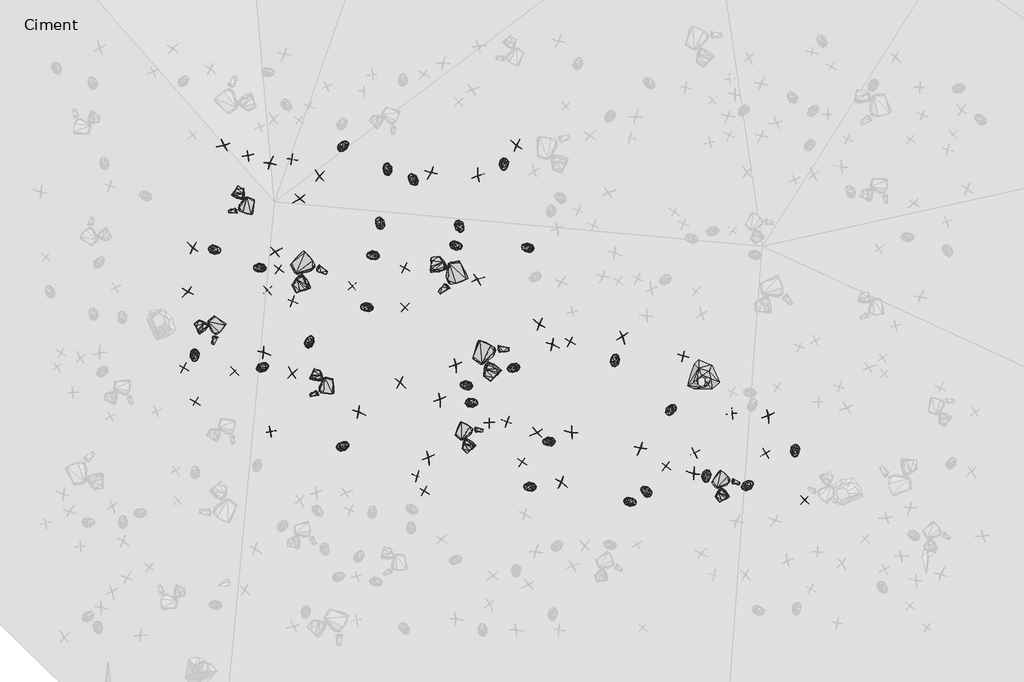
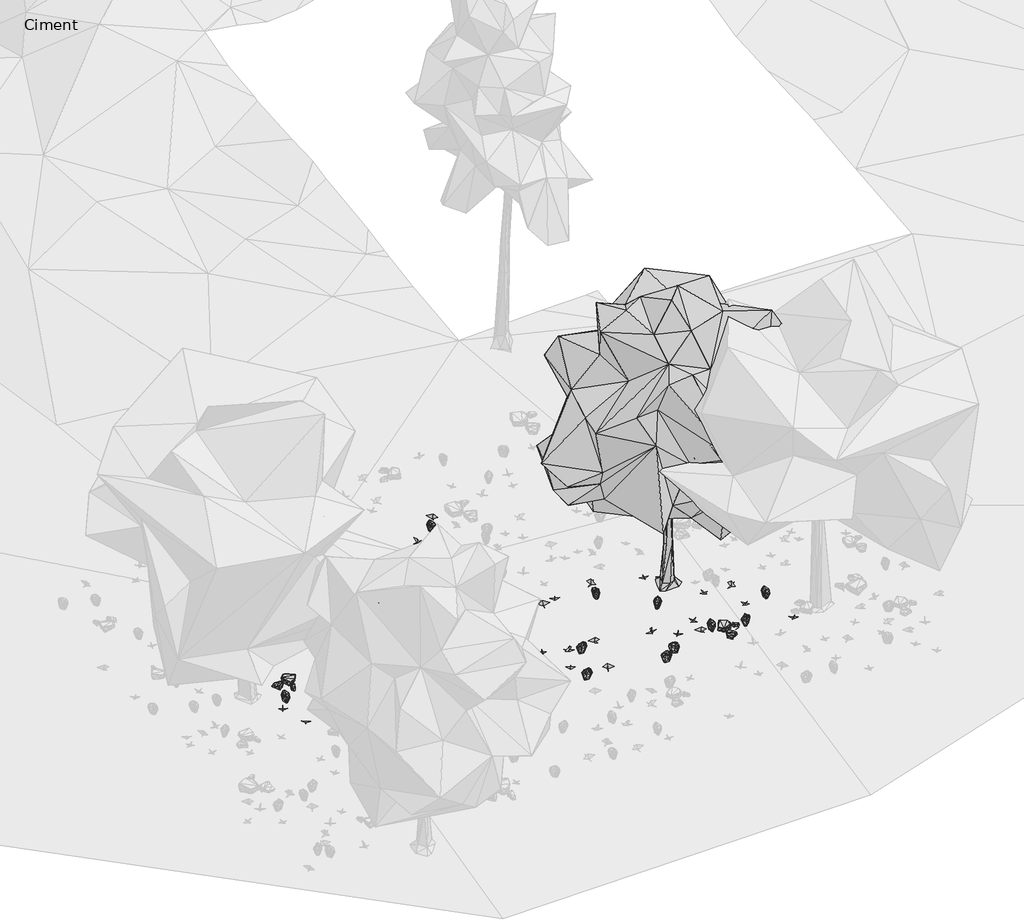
# One storey, part 4 of 30: 88 geographic elements.
"""IFC4 building model written with IfcOpenShell, lengths in millimetres."""

from ifc_helpers import new_model, si_unit, origin, place, context, project, spatial, transform, mapped, element, save
from components import enscape_assetdefinition_bush_025_fern_enscape_5718bf32, enscape_assetdefinition_bush_054_plant_09_version_2_enscape_7b546a12, enscape_assetdefinition_bush_062_plant_09_version_3_enscape_ccf8c8eb, enscape_assetdefinition_deciduous_tree_024_elm_enscape_8f9d8ef3, enscape_assetdefinition_stone_013_group_enscape_516da325, enscape_assetdefinition_stone_013_group_enscape_db9b3e91

model = new_model("IFC4")

# Units and contexts
model_context = context("Model", 3, world=origin())
ifc_project = project(units=[si_unit("LENGTHUNIT", "METRE", prefix="MILLI")], contexts=[model_context])

# Site, building, storey
site = spatial("IfcSite", under=ifc_project)
building = spatial("IfcBuilding", under=site)
storey = spatial("IfcBuildingStorey", under=building, Name="Ciment", Elevation=-1500.0)

# Geographic elements
placement = place(None, origin())
enscape_assetdefinition_bush_025_fern_enscape_shape = enscape_assetdefinition_bush_025_fern_enscape_5718bf32(model_context)
element("IfcGeographicElement", 1, ObjectType="Enscape AssetDefinition - Bush 025 Fern : Enscape AssetDefinition - Bush 025 Fern", at=placement, inside=storey, context=model_context, shape_type="MappedRepresentation", body=[
    mapped(enscape_assetdefinition_bush_025_fern_enscape_shape, transform((-15313.0407333, -20746.4199066, -2335.6375694), x_axis=(0.1297485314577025, -0.9915469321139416, 0.0), y_axis=(0.9915469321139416, 0.1297485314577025, 0.0), z_axis=(0.0, 0.0, 1.0))),
])
element("IfcGeographicElement", 2, ObjectType="Enscape AssetDefinition - Bush 025 Fern : Enscape AssetDefinition - Bush 025 Fern", at=placement, inside=storey, context=model_context, shape_type="MappedRepresentation", body=[
    mapped(enscape_assetdefinition_bush_025_fern_enscape_shape, transform((-9325.4852295, -21767.3854828, -2311.6297722), x_axis=(0.9930933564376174, 0.11732683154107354, 0.0), y_axis=(-0.11732683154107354, 0.9930933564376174, 0.0), z_axis=(0.0, 0.0, 1.0))),
])
element("IfcGeographicElement", 3, ObjectType="Enscape AssetDefinition - Bush 025 Fern : Enscape AssetDefinition - Bush 025 Fern", at=placement, inside=storey, context=model_context, shape_type="MappedRepresentation", body=[
    mapped(enscape_assetdefinition_bush_025_fern_enscape_shape, transform((-2356.4720154, -22803.4362793, -2377.5362968), x_axis=(0.049325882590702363, -0.9987827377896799, 0.0), y_axis=(0.9987827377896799, 0.049325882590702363, 0.0), z_axis=(0.0, 0.0, 1.0))),
])
element("IfcGeographicElement", 4, ObjectType="Enscape AssetDefinition - Bush 025 Fern : Enscape AssetDefinition - Bush 025 Fern", at=placement, inside=storey, context=model_context, shape_type="MappedRepresentation", body=[
    mapped(enscape_assetdefinition_bush_025_fern_enscape_shape, transform((-12105.3905487, -22703.8173676, -2388.0412579), x_axis=(0.8779744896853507, 0.4787074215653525, 0.0), y_axis=(-0.4787074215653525, 0.8779744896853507, 0.0), z_axis=(0.0, 0.0, 1.0))),
])
element("IfcGeographicElement", 5, ObjectType="Enscape AssetDefinition - Bush 025 Fern : Enscape AssetDefinition - Bush 025 Fern", at=placement, inside=storey, context=model_context, shape_type="MappedRepresentation", body=[
    mapped(enscape_assetdefinition_bush_025_fern_enscape_shape, transform((-3368.6561584, -23548.3875275, -2411.5333557), x_axis=(0.8121605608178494, 0.5834339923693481, 0.0), y_axis=(-0.5834339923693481, 0.8121605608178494, 0.0), z_axis=(0.0, 0.0, 1.0))),
])
element("IfcGeographicElement", 6, ObjectType="Enscape AssetDefinition - Bush 025 Fern : Enscape AssetDefinition - Bush 025 Fern", at=placement, inside=storey, context=model_context, shape_type="MappedRepresentation", body=[
    mapped(enscape_assetdefinition_bush_025_fern_enscape_shape, transform((-8078.8726807, -23575.5462646, -2445.1582432), x_axis=(-0.9970625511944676, -0.07659157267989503, 0.0), y_axis=(0.07659157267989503, -0.9970625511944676, 0.0), z_axis=(0.0, 0.0, 1.0))),
])
element("IfcGeographicElement", 7, ObjectType="Enscape AssetDefinition - Bush 025 Fern : Enscape AssetDefinition - Bush 025 Fern", at=placement, inside=storey, context=model_context, shape_type="MappedRepresentation", body=[
    mapped(enscape_assetdefinition_bush_025_fern_enscape_shape, transform((-9454.8883438, -21385.011673, -2282.4313641), x_axis=(-0.9969467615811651, 0.07808427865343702, 0.0), y_axis=(-0.07808427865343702, -0.9969467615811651, 0.0), z_axis=(0.0, 0.0, 1.0))),
])
element("IfcGeographicElement", 8, ObjectType="Enscape AssetDefinition - Bush 025 Fern : Enscape AssetDefinition - Bush 025 Fern", at=placement, inside=storey, context=model_context, shape_type="MappedRepresentation", body=[
    mapped(enscape_assetdefinition_bush_025_fern_enscape_shape, transform((-11306.9677353, -17879.9571991, -2019.548893), x_axis=(-0.4514173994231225, 0.8923129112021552, 0.0), y_axis=(-0.8923129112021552, -0.4514173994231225, 0.0), z_axis=(0.0, 0.0, 1.0))),
])
element("IfcGeographicElement", 9, ObjectType="Enscape AssetDefinition - Bush 025 Fern : Enscape AssetDefinition - Bush 025 Fern", at=placement, inside=storey, context=model_context, shape_type="MappedRepresentation", body=[
    mapped(enscape_assetdefinition_bush_025_fern_enscape_shape, transform((-8126.4076233, -18412.5843048, -2038.7320518), x_axis=(-0.9978548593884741, 0.06546510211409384, 0.0), y_axis=(-0.06546510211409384, -0.9978548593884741, 0.0), z_axis=(0.0, 0.0, 1.0))),
])
element("IfcGeographicElement", 10, ObjectType="Enscape AssetDefinition - Bush 025 Fern : Enscape AssetDefinition - Bush 025 Fern", at=placement, inside=storey, context=model_context, shape_type="MappedRepresentation", body=[
    mapped(enscape_assetdefinition_bush_025_fern_enscape_shape, transform((-9663.4464264, -18376.5983582, -2046.9055176), x_axis=(0.9950026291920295, -0.0998487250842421, 0.0), y_axis=(0.0998487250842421, 0.9950026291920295, 0.0), z_axis=(0.0, 0.0, 1.0))),
])
element("IfcGeographicElement", 11, ObjectType="Enscape AssetDefinition - Bush 025 Fern : Enscape AssetDefinition - Bush 025 Fern", at=placement, inside=storey, context=model_context, shape_type="MappedRepresentation", body=[
    mapped(enscape_assetdefinition_bush_025_fern_enscape_shape, transform((-7670.2461243, -22597.0287323, -2365.1385307), x_axis=(-0.9947774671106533, -0.10206758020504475, 0.0), y_axis=(0.10206758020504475, -0.9947774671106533, 0.0), z_axis=(0.0, 0.0, 1.0))),
])
element("IfcGeographicElement", 12, ObjectType="Enscape AssetDefinition - Bush 025 Fern : Enscape AssetDefinition - Bush 025 Fern", at=placement, inside=storey, context=model_context, shape_type="MappedRepresentation", body=[
    mapped(enscape_assetdefinition_bush_025_fern_enscape_shape, transform((-11464.8799896, -18580.3279877, -2075.8590698), x_axis=(-0.9937899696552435, -0.11127217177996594, 0.0), y_axis=(0.11127217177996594, -0.9937899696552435, 0.0), z_axis=(0.0, 0.0, 1.0))),
])
element("IfcGeographicElement", 13, ObjectType="Enscape AssetDefinition - Bush 025 Fern : Enscape AssetDefinition - Bush 025 Fern", at=placement, inside=storey, context=model_context, shape_type="MappedRepresentation", body=[
    mapped(enscape_assetdefinition_bush_025_fern_enscape_shape, transform((-6234.2834473, -20842.5540924, -2216.6259289), x_axis=(0.021622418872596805, 0.9997662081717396, 0.0), y_axis=(-0.9997662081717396, 0.021622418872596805, 0.0), z_axis=(0.0, 0.0, 1.0))),
])
element("IfcGeographicElement", 14, ObjectType="Enscape AssetDefinition - Bush 025 Fern : Enscape AssetDefinition - Bush 025 Fern", at=placement, inside=storey, context=model_context, shape_type="MappedRepresentation", body=[
    mapped(enscape_assetdefinition_bush_025_fern_enscape_shape, transform((-12096.862793, -16220.2587128, -1874.7041225), x_axis=(0.6278573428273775, 0.778328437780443, 0.0), y_axis=(-0.778328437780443, 0.6278573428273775, 0.0), z_axis=(0.0, 0.0, 1.0))),
])
element("IfcGeographicElement", 15, ObjectType="Enscape AssetDefinition - Bush 025 Fern : Enscape AssetDefinition - Bush 025 Fern", at=placement, inside=storey, context=model_context, shape_type="MappedRepresentation", body=[
    mapped(enscape_assetdefinition_bush_025_fern_enscape_shape, transform((-11145.0939178, -16713.0641937, -1909.6087217), x_axis=(-0.2807022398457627, 0.9597949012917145, 0.0), y_axis=(-0.9597949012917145, -0.2807022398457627, 0.0), z_axis=(0.0, 0.0, 1.0))),
])
element("IfcGeographicElement", 16, ObjectType="Enscape AssetDefinition - Bush 025 Fern : Enscape AssetDefinition - Bush 025 Fern", at=placement, inside=storey, context=model_context, shape_type="MappedRepresentation", body=[
    mapped(enscape_assetdefinition_bush_025_fern_enscape_shape, transform((-14871.966362, -18464.5748138, -2153.5224915), x_axis=(0.9970270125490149, -0.07705281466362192, 0.0), y_axis=(0.07705281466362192, 0.9970270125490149, 0.0), z_axis=(0.0, 0.0, 1.0))),
])
element("IfcGeographicElement", 17, ObjectType="Enscape AssetDefinition - Bush 025 Fern : Enscape AssetDefinition - Bush 025 Fern", at=placement, inside=storey, context=model_context, shape_type="MappedRepresentation", body=[
    mapped(enscape_assetdefinition_bush_025_fern_enscape_shape, transform((-8434.7333908, -21007.2364807, -2245.3613281), x_axis=(-0.9186868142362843, -0.3949867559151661, 0.0), y_axis=(0.3949867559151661, -0.9186868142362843, 0.0), z_axis=(0.0, 0.0, 1.0))),
])
element("IfcGeographicElement", 18, ObjectType="Enscape AssetDefinition - Bush 025 Fern : Enscape AssetDefinition - Bush 025 Fern", at=placement, inside=storey, context=model_context, shape_type="MappedRepresentation", body=[
    mapped(enscape_assetdefinition_bush_025_fern_enscape_shape, transform((-10593.7786102, -16935.7891083, -1926.3224602), x_axis=(-0.608990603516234, 0.7931774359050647, 0.0), y_axis=(-0.7931774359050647, -0.608990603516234, 0.0), z_axis=(0.0, 0.0, 1.0))),
])
element("IfcGeographicElement", 19, ObjectType="Enscape AssetDefinition - Bush 025 Fern : Enscape AssetDefinition - Bush 025 Fern", at=placement, inside=storey, context=model_context, shape_type="MappedRepresentation", body=[
    mapped(enscape_assetdefinition_bush_025_fern_enscape_shape, transform((-9595.0908661, -17966.0930634, -2014.0740871), x_axis=(0.4846294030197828, -0.8747195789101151, 0.0), y_axis=(0.8747195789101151, 0.4846294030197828, 0.0), z_axis=(0.0, 0.0, 1.0))),
])
element("IfcGeographicElement", 20, ObjectType="Enscape AssetDefinition - Bush 025 Fern : Enscape AssetDefinition - Bush 025 Fern", at=placement, inside=storey, context=model_context, shape_type="MappedRepresentation", body=[
    mapped(enscape_assetdefinition_bush_025_fern_enscape_shape, transform((-13912.6768112, -18847.3339081, -2116.3358688), x_axis=(-0.9989013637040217, -0.04686219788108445, 0.0), y_axis=(0.04686219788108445, -0.9989013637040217, 0.0), z_axis=(0.0, 0.0, 1.0))),
])
element("IfcGeographicElement", 21, ObjectType="Enscape AssetDefinition - Bush 025 Fern : Enscape AssetDefinition - Bush 025 Fern", at=placement, inside=storey, context=model_context, shape_type="MappedRepresentation", body=[
    mapped(enscape_assetdefinition_bush_025_fern_enscape_shape, transform((-5039.3180847, -21921.2665558, -2293.0545807), x_axis=(-0.587233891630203, -0.8094172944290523, 0.0), y_axis=(0.8094172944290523, -0.587233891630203, 0.0), z_axis=(0.0, 0.0, 1.0))),
])
element("IfcGeographicElement", 22, ObjectType="Enscape AssetDefinition - Bush 025 Fern : Enscape AssetDefinition - Bush 025 Fern", at=placement, inside=storey, context=model_context, shape_type="MappedRepresentation", body=[
    mapped(enscape_assetdefinition_bush_025_fern_enscape_shape, transform((-4268.4993744, -23350.9807587, -2400.1746178), x_axis=(-0.06346333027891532, -0.9979841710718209, 0.0), y_axis=(0.9979841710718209, -0.06346333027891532, 0.0), z_axis=(0.0, 0.0, 1.0))),
])
element("IfcGeographicElement", 23, ObjectType="Enscape AssetDefinition - Bush 025 Fern : Enscape AssetDefinition - Bush 025 Fern", at=placement, inside=storey, context=model_context, shape_type="MappedRepresentation", body=[
    mapped(enscape_assetdefinition_bush_025_fern_enscape_shape, transform((-13834.8112106, -20998.4264374, -2262.0654106), x_axis=(0.8694208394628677, 0.49407226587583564, 0.0), y_axis=(-0.49407226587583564, 0.8694208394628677, 0.0), z_axis=(0.0, 0.0, 1.0))),
])
element("IfcGeographicElement", 24, ObjectType="Enscape AssetDefinition - Bush 025 Fern : Enscape AssetDefinition - Bush 025 Fern", at=placement, inside=storey, context=model_context, shape_type="MappedRepresentation", body=[
    mapped(enscape_assetdefinition_bush_025_fern_enscape_shape, transform((-5565.0501251, -23671.7243195, -2434.7310066), x_axis=(-0.8082638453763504, 0.5888204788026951, 0.0), y_axis=(-0.5888204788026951, -0.8082638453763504, 0.0), z_axis=(0.0, 0.0, 1.0))),
])
element("IfcGeographicElement", 25, ObjectType="Enscape AssetDefinition - Bush 025 Fern : Enscape AssetDefinition - Bush 025 Fern", at=placement, inside=storey, context=model_context, shape_type="MappedRepresentation", body=[
    mapped(enscape_assetdefinition_bush_025_fern_enscape_shape, transform((-5908.0066681, -23906.5570831, -2455.6884766), x_axis=(0.9990170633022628, -0.0443272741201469, 0.0), y_axis=(0.0443272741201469, 0.9990170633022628, 0.0), z_axis=(0.0, 0.0, 1.0))),
])
element("IfcGeographicElement", 26, ObjectType="Enscape AssetDefinition - Bush 025 Fern : Enscape AssetDefinition - Bush 025 Fern", at=placement, inside=storey, context=model_context, shape_type="MappedRepresentation", body=[
    mapped(enscape_assetdefinition_bush_025_fern_enscape_shape, transform((-11600.5897522, -19696.0468292, -2164.7338867), x_axis=(-0.9999663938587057, -0.008198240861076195, 0.0), y_axis=(0.008198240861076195, -0.9999663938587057, 0.0), z_axis=(0.0, 0.0, 1.0))),
])
element("IfcGeographicElement", 27, ObjectType="Enscape AssetDefinition - Bush 025 Fern : Enscape AssetDefinition - Bush 025 Fern", at=placement, inside=storey, context=model_context, shape_type="MappedRepresentation", body=[
    mapped(enscape_assetdefinition_bush_025_fern_enscape_shape, transform((-12822.5898743, -20443.0027008, -2221.8499184), x_axis=(0.24682736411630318, 0.9690594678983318, 0.0), y_axis=(-0.9690594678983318, 0.24682736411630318, 0.0), z_axis=(0.0, 0.0, 1.0))),
])
element("IfcGeographicElement", 28, ObjectType="Enscape AssetDefinition - Bush 025 Fern : Enscape AssetDefinition - Bush 025 Fern", at=placement, inside=storey, context=model_context, shape_type="MappedRepresentation", body=[
    mapped(enscape_assetdefinition_bush_025_fern_enscape_shape, transform((-8637.2289658, -16618.3414459, -1878.3597946), x_axis=(0.07290643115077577, -0.9973387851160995, 0.0), y_axis=(0.9973387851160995, 0.07290643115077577, 0.0), z_axis=(0.0, 0.0, 1.0))),
])
enscape_assetdefinition_bush_054_plant_09_version_2_enscape_shape = enscape_assetdefinition_bush_054_plant_09_version_2_enscape_7b546a12(model_context)
element("IfcGeographicElement", 29, ObjectType="Enscape AssetDefinition - Bush 054 Plant 09, Version 2 : Enscape AssetDefinition - Bush 054 Plant 09, Version 2", at=placement, inside=storey, context=model_context, shape_type="MappedRepresentation", body=[
    mapped(enscape_assetdefinition_bush_054_plant_09_version_2_enscape_shape, transform((-4759.5596313, -20756.8759918, -2199.313879), x_axis=(0.18864161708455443, 0.9820459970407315, 0.0), y_axis=(-0.9820459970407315, 0.18864161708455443, 0.0), z_axis=(0.0, 0.0, 1.0))),
])
element("IfcGeographicElement", 30, ObjectType="Enscape AssetDefinition - Bush 054 Plant 09, Version 2 : Enscape AssetDefinition - Bush 054 Plant 09, Version 2", at=placement, inside=storey, context=model_context, shape_type="MappedRepresentation", body=[
    mapped(enscape_assetdefinition_bush_054_plant_09_version_2_enscape_shape, transform((-8573.3089447, -22175.8518219, -2338.4239674), x_axis=(0.9604195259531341, -0.27855759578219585, 0.0), y_axis=(0.27855759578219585, 0.9604195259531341, 0.0), z_axis=(0.0, 0.0, 1.0))),
])
element("IfcGeographicElement", 31, ObjectType="Enscape AssetDefinition - Bush 054 Plant 09, Version 2 : Enscape AssetDefinition - Bush 054 Plant 09, Version 2", at=placement, inside=storey, context=model_context, shape_type="MappedRepresentation", body=[
    mapped(enscape_assetdefinition_bush_054_plant_09_version_2_enscape_shape, transform((-10350.3932953, -23665.7428741, -2459.5003128), x_axis=(-0.8873368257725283, 0.4611218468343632, 0.0), y_axis=(-0.4611218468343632, -0.8873368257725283, 0.0), z_axis=(0.0, 0.0, 1.0))),
])
element("IfcGeographicElement", 32, ObjectType="Enscape AssetDefinition - Bush 054 Plant 09, Version 2 : Enscape AssetDefinition - Bush 054 Plant 09, Version 2", at=placement, inside=storey, context=model_context, shape_type="MappedRepresentation", body=[
    mapped(enscape_assetdefinition_bush_054_plant_09_version_2_enscape_shape, transform((-4518.5265541, -22839.0216827, -2361.6304398), x_axis=(-0.8640635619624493, -0.5033827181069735, 0.0), y_axis=(0.5033827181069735, -0.8640635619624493, 0.0), z_axis=(0.0, 0.0, 1.0))),
])
element("IfcGeographicElement", 33, ObjectType="Enscape AssetDefinition - Bush 054 Plant 09, Version 2 : Enscape AssetDefinition - Bush 054 Plant 09, Version 2", at=placement, inside=storey, context=model_context, shape_type="MappedRepresentation", body=[
    mapped(enscape_assetdefinition_bush_054_plant_09_version_2_enscape_shape, transform((-10512.8192902, -23350.2502441, -2436.2769127), x_axis=(0.9685882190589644, -0.2486701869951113, 0.0), y_axis=(0.2486701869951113, 0.9685882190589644, 0.0), z_axis=(0.0, 0.0, 1.0))),
])
element("IfcGeographicElement", 34, ObjectType="Enscape AssetDefinition - Bush 054 Plant 09, Version 2 : Enscape AssetDefinition - Bush 054 Plant 09, Version 2", at=placement, inside=storey, context=model_context, shape_type="MappedRepresentation", body=[
    mapped(enscape_assetdefinition_bush_054_plant_09_version_2_enscape_shape, transform((-3709.400177, -22000.9632111, -2289.8087502), x_axis=(0.9890036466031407, 0.14789113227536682, 0.0), y_axis=(-0.14789113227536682, 0.9890036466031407, 0.0), z_axis=(0.0, 0.0, 1.0))),
])
element("IfcGeographicElement", 35, ObjectType="Enscape AssetDefinition - Bush 054 Plant 09, Version 2 : Enscape AssetDefinition - Bush 054 Plant 09, Version 2", at=placement, inside=storey, context=model_context, shape_type="MappedRepresentation", body=[
    mapped(enscape_assetdefinition_bush_054_plant_09_version_2_enscape_shape, transform((-7201.8013, -20447.2579956, -2192.4126148), x_axis=(0.4248440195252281, 0.9052665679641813, 0.0), y_axis=(-0.9052665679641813, 0.4248440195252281, 0.0), z_axis=(0.0, 0.0, 1.0))),
])
element("IfcGeographicElement", 36, ObjectType="Enscape AssetDefinition - Bush 054 Plant 09, Version 2 : Enscape AssetDefinition - Bush 054 Plant 09, Version 2", at=placement, inside=storey, context=model_context, shape_type="MappedRepresentation", body=[
    mapped(enscape_assetdefinition_bush_054_plant_09_version_2_enscape_shape, transform((-13194.6353912, -19569.0021515, -2157.5539112), x_axis=(-0.9613201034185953, 0.27543358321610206, 0.0), y_axis=(-0.27543358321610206, -0.9613201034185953, 0.0), z_axis=(0.0, 0.0, 1.0))),
])
element("IfcGeographicElement", 37, ObjectType="Enscape AssetDefinition - Bush 054 Plant 09, Version 2 : Enscape AssetDefinition - Bush 054 Plant 09, Version 2", at=placement, inside=storey, context=model_context, shape_type="MappedRepresentation", body=[
    mapped(enscape_assetdefinition_bush_054_plant_09_version_2_enscape_shape, transform((-10775.2361298, -18848.1693268, -2092.0214653), x_axis=(-0.9086320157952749, 0.41759772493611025, 0.0), y_axis=(-0.41759772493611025, -0.9086320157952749, 0.0), z_axis=(0.0, 0.0, 1.0))),
])
element("IfcGeographicElement", 38, ObjectType="Enscape AssetDefinition - Bush 054 Plant 09, Version 2 : Enscape AssetDefinition - Bush 054 Plant 09, Version 2", at=placement, inside=storey, context=model_context, shape_type="MappedRepresentation", body=[
    mapped(enscape_assetdefinition_bush_054_plant_09_version_2_enscape_shape, transform((-10773.0312347, -19705.5950165, -2159.5582962), x_axis=(0.7577049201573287, -0.6525973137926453, 0.0), y_axis=(0.6525973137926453, 0.7577049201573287, 0.0), z_axis=(0.0, 0.0, 1.0))),
])
element("IfcGeographicElement", 39, ObjectType="Enscape AssetDefinition - Bush 054 Plant 09, Version 2 : Enscape AssetDefinition - Bush 054 Plant 09, Version 2", at=placement, inside=storey, context=model_context, shape_type="MappedRepresentation", body=[
    mapped(enscape_assetdefinition_bush_054_plant_09_version_2_enscape_shape, transform((-15543.2443619, -21007.1353912, -2368.2327271), x_axis=(-0.8990830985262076, 0.43777800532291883, 0.0), y_axis=(-0.43777800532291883, -0.8990830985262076, 0.0), z_axis=(0.0, 0.0, 1.0))),
])
element("IfcGeographicElement", 40, ObjectType="Enscape AssetDefinition - Bush 054 Plant 09, Version 2 : Enscape AssetDefinition - Bush 054 Plant 09, Version 2", at=placement, inside=storey, context=model_context, shape_type="MappedRepresentation", body=[
    mapped(enscape_assetdefinition_bush_054_plant_09_version_2_enscape_shape, transform((-2142.4312592, -23868.768692, -2469.7020054), x_axis=(0.6655663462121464, 0.7463386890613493, 0.0), y_axis=(-0.7463386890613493, 0.6655663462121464, 0.0), z_axis=(0.0, 0.0, 1.0))),
])
element("IfcGeographicElement", 41, ObjectType="Enscape AssetDefinition - Bush 054 Plant 09, Version 2 : Enscape AssetDefinition - Bush 054 Plant 09, Version 2", at=placement, inside=storey, context=model_context, shape_type="MappedRepresentation", body=[
    mapped(enscape_assetdefinition_bush_054_plant_09_version_2_enscape_shape, transform((-8237.4706268, -23044.6720123, -2404.4685364), x_axis=(0.5159078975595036, 0.8566440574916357, 0.0), y_axis=(-0.8566440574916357, 0.5159078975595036, 0.0), z_axis=(0.0, 0.0, 1.0))),
])
element("IfcGeographicElement", 42, ObjectType="Enscape AssetDefinition - Bush 054 Plant 09, Version 2 : Enscape AssetDefinition - Bush 054 Plant 09, Version 2", at=placement, inside=storey, context=model_context, shape_type="MappedRepresentation", body=[
    mapped(enscape_assetdefinition_bush_054_plant_09_version_2_enscape_shape, transform((-8944.6983337, -22194.8509216, -2342.5803185), x_axis=(-0.06449949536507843, 0.9979177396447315, 0.0), y_axis=(-0.9979177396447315, -0.06449949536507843, 0.0), z_axis=(0.0, 0.0, 1.0))),
])
element("IfcGeographicElement", 43, ObjectType="Enscape AssetDefinition - Bush 054 Plant 09, Version 2 : Enscape AssetDefinition - Bush 054 Plant 09, Version 2", at=placement, inside=storey, context=model_context, shape_type="MappedRepresentation", body=[
    mapped(enscape_assetdefinition_bush_054_plant_09_version_2_enscape_shape, transform((-14152.0824432, -16429.5444489, -2000.0), x_axis=(-0.22456502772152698, 0.9744591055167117, 0.0), y_axis=(-0.9744591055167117, -0.22456502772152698, 0.0), z_axis=(0.0, 0.0, 1.0))),
])
element("IfcGeographicElement", 44, ObjectType="Enscape AssetDefinition - Bush 054 Plant 09, Version 2 : Enscape AssetDefinition - Bush 054 Plant 09, Version 2", at=placement, inside=storey, context=model_context, shape_type="MappedRepresentation", body=[
    mapped(enscape_assetdefinition_bush_054_plant_09_version_2_enscape_shape, transform((-2986.1602783, -22857.843399, -2365.4537201), x_axis=(0.8395988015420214, 0.543207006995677, 0.0), y_axis=(-0.543207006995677, 0.8395988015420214, 0.0), z_axis=(0.0, 0.0, 1.0))),
])
element("IfcGeographicElement", 45, ObjectType="Enscape AssetDefinition - Bush 054 Plant 09, Version 2 : Enscape AssetDefinition - Bush 054 Plant 09, Version 2", at=placement, inside=storey, context=model_context, shape_type="MappedRepresentation", body=[
    mapped(enscape_assetdefinition_bush_054_plant_09_version_2_enscape_shape, transform((-13489.7994995, -18880.6476593, -2106.9133282), x_axis=(0.5274338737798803, 0.8495960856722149, 0.0), y_axis=(-0.8495960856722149, 0.5274338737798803, 0.0), z_axis=(0.0, 0.0, 1.0))),
])
element("IfcGeographicElement", 46, ObjectType="Enscape AssetDefinition - Bush 054 Plant 09, Version 2 : Enscape AssetDefinition - Bush 054 Plant 09, Version 2", at=placement, inside=storey, context=model_context, shape_type="MappedRepresentation", body=[
    mapped(enscape_assetdefinition_bush_054_plant_09_version_2_enscape_shape, transform((-11908.741951, -19245.5234528, -2131.4454079), x_axis=(0.6856428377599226, -0.727938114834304, 0.0), y_axis=(0.727938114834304, 0.6856428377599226, 0.0), z_axis=(0.0, 0.0, 1.0))),
])
element("IfcGeographicElement", 47, ObjectType="Enscape AssetDefinition - Bush 054 Plant 09, Version 2 : Enscape AssetDefinition - Bush 054 Plant 09, Version 2", at=placement, inside=storey, context=model_context, shape_type="MappedRepresentation", body=[
    mapped(enscape_assetdefinition_bush_054_plant_09_version_2_enscape_shape, transform((-5131.5231323, -23129.8389435, -2388.9331818), x_axis=(-0.8135765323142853, 0.5814578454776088, 0.0), y_axis=(-0.5814578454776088, -0.8135765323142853, 0.0), z_axis=(0.0, 0.0, 1.0))),
])
element("IfcGeographicElement", 48, ObjectType="Enscape AssetDefinition - Bush 054 Plant 09, Version 2 : Enscape AssetDefinition - Bush 054 Plant 09, Version 2", at=placement, inside=storey, context=model_context, shape_type="MappedRepresentation", body=[
    mapped(enscape_assetdefinition_bush_054_plant_09_version_2_enscape_shape, transform((-13206.6869736, -16504.4727325, -1943.2623386), x_axis=(-0.9947817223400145, 0.10202609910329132, 0.0), y_axis=(-0.10202609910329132, -0.9947817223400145, 0.0), z_axis=(0.0, 0.0, 1.0))),
])
element("IfcGeographicElement", 49, ObjectType="Enscape AssetDefinition - Bush 054 Plant 09, Version 2 : Enscape AssetDefinition - Bush 054 Plant 09, Version 2", at=placement, inside=storey, context=model_context, shape_type="MappedRepresentation", body=[
    mapped(enscape_assetdefinition_bush_054_plant_09_version_2_enscape_shape, transform((-13738.1906509, -19330.5435181, -2139.7829056), x_axis=(-0.7114569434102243, -0.7027296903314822, 0.0), y_axis=(0.7027296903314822, -0.7114569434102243, 0.0), z_axis=(0.0, 0.0, 1.0))),
])
element("IfcGeographicElement", 50, ObjectType="Enscape AssetDefinition - Bush 054 Plant 09, Version 2 : Enscape AssetDefinition - Bush 054 Plant 09, Version 2", at=placement, inside=storey, context=model_context, shape_type="MappedRepresentation", body=[
    mapped(enscape_assetdefinition_bush_054_plant_09_version_2_enscape_shape, transform((-13668.2415009, -22380.5408478, -2363.5234833), x_axis=(-0.9745796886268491, -0.22404113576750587, 0.0), y_axis=(0.22404113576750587, -0.9745796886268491, 0.0), z_axis=(0.0, 0.0, 1.0))),
])
element("IfcGeographicElement", 51, ObjectType="Enscape AssetDefinition - Bush 054 Plant 09, Version 2 : Enscape AssetDefinition - Bush 054 Plant 09, Version 2", at=placement, inside=storey, context=model_context, shape_type="MappedRepresentation", body=[
    mapped(enscape_assetdefinition_bush_054_plant_09_version_2_enscape_shape, transform((-14442.6488876, -21086.3018036, -2301.3997078), x_axis=(0.7046908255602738, 0.7095145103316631, 0.0), y_axis=(-0.7095145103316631, 0.7046908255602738, 0.0), z_axis=(0.0, 0.0, 1.0))),
])
element("IfcGeographicElement", 52, ObjectType="Enscape AssetDefinition - Bush 054 Plant 09, Version 2 : Enscape AssetDefinition - Bush 054 Plant 09, Version 2", at=placement, inside=storey, context=model_context, shape_type="MappedRepresentation", body=[
    mapped(enscape_assetdefinition_bush_054_plant_09_version_2_enscape_shape, transform((-15296.2341309, -21742.6586151, -2401.4225006), x_axis=(-0.47309816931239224, -0.8810097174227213, 0.0), y_axis=(0.8810097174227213, -0.47309816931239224, 0.0), z_axis=(0.0, 0.0, 1.0))),
])
enscape_assetdefinition_bush_062_plant_09_version_3_enscape_shape = enscape_assetdefinition_bush_062_plant_09_version_3_enscape_ccf8c8eb(model_context)
element("IfcGeographicElement", 53, ObjectType="Enscape AssetDefinition - Bush 062 Plant 09, Version 3 : Enscape AssetDefinition - Bush 062 Plant 09, Version 3", at=placement, inside=storey, context=model_context, shape_type="MappedRepresentation", body=[
    mapped(enscape_assetdefinition_bush_062_plant_09_version_3_enscape_shape, transform((-7578.6004066, -20508.4323883, -2199.9311447), x_axis=(-0.05804061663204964, -0.9983142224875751, 0.0), y_axis=(0.9983142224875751, -0.05804061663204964, 0.0), z_axis=(0.0, 0.0, 1.0))),
])
element("IfcGeographicElement", 54, ObjectType="Enscape AssetDefinition - Bush 062 Plant 09, Version 3 : Enscape AssetDefinition - Bush 062 Plant 09, Version 3", at=placement, inside=storey, context=model_context, shape_type="MappedRepresentation", body=[
    mapped(enscape_assetdefinition_bush_062_plant_09_version_3_enscape_shape, transform((-15355.7243347, -18412.7025604, -2181.7514896), x_axis=(0.3776370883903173, 0.9259536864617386, 0.0), y_axis=(-0.9259536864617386, 0.3776370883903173, 0.0), z_axis=(0.0, 0.0, 1.0))),
])
element("IfcGeographicElement", 55, ObjectType="Enscape AssetDefinition - Bush 062 Plant 09, Version 3 : Enscape AssetDefinition - Bush 062 Plant 09, Version 3", at=placement, inside=storey, context=model_context, shape_type="MappedRepresentation", body=[
    mapped(enscape_assetdefinition_bush_062_plant_09_version_3_enscape_shape, transform((-13558.1254959, -18495.7180023, -2078.6452293), x_axis=(0.7349448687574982, -0.678126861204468, 0.0), y_axis=(0.678126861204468, 0.7349448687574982, 0.0), z_axis=(0.0, 0.0, 1.0))),
])
element("IfcGeographicElement", 56, ObjectType="Enscape AssetDefinition - Bush 062 Plant 09, Version 3 : Enscape AssetDefinition - Bush 062 Plant 09, Version 3", at=placement, inside=storey, context=model_context, shape_type="MappedRepresentation", body=[
    mapped(enscape_assetdefinition_bush_062_plant_09_version_3_enscape_shape, transform((-13212.4328613, -21123.7201691, -2271.5764046), x_axis=(0.6449329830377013, 0.7642391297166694, 0.0), y_axis=(-0.7642391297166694, 0.6449329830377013, 0.0), z_axis=(0.0, 0.0, 1.0))),
])
element("IfcGeographicElement", 57, ObjectType="Enscape AssetDefinition - Bush 062 Plant 09, Version 3 : Enscape AssetDefinition - Bush 062 Plant 09, Version 3", at=placement, inside=storey, context=model_context, shape_type="MappedRepresentation", body=[
    mapped(enscape_assetdefinition_bush_062_plant_09_version_3_enscape_shape, transform((-11759.1819763, -21964.2467499, -2333.9760303), x_axis=(-0.07352542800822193, -0.9972933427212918, 0.0), y_axis=(0.9972933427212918, -0.07352542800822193, 0.0), z_axis=(0.0, 0.0, 1.0))),
])
element("IfcGeographicElement", 58, ObjectType="Enscape AssetDefinition - Bush 062 Plant 09, Version 3 : Enscape AssetDefinition - Bush 062 Plant 09, Version 3", at=placement, inside=storey, context=model_context, shape_type="MappedRepresentation", body=[
    mapped(enscape_assetdefinition_bush_062_plant_09_version_3_enscape_shape, transform((-14688.4660721, -16212.3279572, -2001.9350052), x_axis=(-0.5386165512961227, 0.8425510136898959, 0.0), y_axis=(-0.8425510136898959, -0.5386165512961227, 0.0), z_axis=(0.0, 0.0, 1.0))),
])
element("IfcGeographicElement", 59, ObjectType="Enscape AssetDefinition - Bush 062 Plant 09, Version 3 : Enscape AssetDefinition - Bush 062 Plant 09, Version 3", at=placement, inside=storey, context=model_context, shape_type="MappedRepresentation", body=[
    mapped(enscape_assetdefinition_bush_062_plant_09_version_3_enscape_shape, transform((-6071.2561607, -20346.4031219, -2176.3696671), x_axis=(-0.7888197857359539, -0.6146245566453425, 0.0), y_axis=(0.6146245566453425, -0.7888197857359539, 0.0), z_axis=(0.0, 0.0, 1.0))),
])
element("IfcGeographicElement", 60, ObjectType="Enscape AssetDefinition - Bush 062 Plant 09, Version 3 : Enscape AssetDefinition - Bush 062 Plant 09, Version 3", at=placement, inside=storey, context=model_context, shape_type="MappedRepresentation", body=[
    mapped(enscape_assetdefinition_bush_062_plant_09_version_3_enscape_shape, transform((-7929.4719696, -22414.560318, -2352.6191711), x_axis=(-0.7445906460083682, 0.6675213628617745, 0.0), y_axis=(-0.6675213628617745, -0.7445906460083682, 0.0), z_axis=(0.0, 0.0, 1.0))),
])
element("IfcGeographicElement", 61, ObjectType="Enscape AssetDefinition - Bush 062 Plant 09, Version 3 : Enscape AssetDefinition - Bush 062 Plant 09, Version 3", at=placement, inside=storey, context=model_context, shape_type="MappedRepresentation", body=[
    mapped(enscape_assetdefinition_bush_062_plant_09_version_3_enscape_shape, transform((-10261.472702, -22953.6266327, -2407.3162079), x_axis=(-0.8848303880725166, -0.4659132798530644, 0.0), y_axis=(0.4659132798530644, -0.8848303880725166, 0.0), z_axis=(0.0, 0.0, 1.0))),
])
element("IfcGeographicElement", 62, ObjectType="Enscape AssetDefinition - Bush 062 Plant 09, Version 3 : Enscape AssetDefinition - Bush 062 Plant 09, Version 3", at=placement, inside=storey, context=model_context, shape_type="MappedRepresentation", body=[
    mapped(enscape_assetdefinition_bush_062_plant_09_version_3_enscape_shape, transform((-7385.5557442, -23483.3202362, -2432.9266548), x_axis=(-0.2732599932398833, -0.9619402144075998, 0.0), y_axis=(0.9619402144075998, -0.2732599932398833, 0.0), z_axis=(0.0, 0.0, 1.0))),
])
element("IfcGeographicElement", 63, ObjectType="Enscape AssetDefinition - Bush 062 Plant 09, Version 3 : Enscape AssetDefinition - Bush 062 Plant 09, Version 3", at=placement, inside=storey, context=model_context, shape_type="MappedRepresentation", body=[
    mapped(enscape_assetdefinition_bush_062_plant_09_version_3_enscape_shape, transform((-12623.3444214, -16866.2891388, -1937.4593496), x_axis=(0.5729011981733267, 0.8196244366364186, 0.0), y_axis=(-0.8196244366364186, 0.5729011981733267, 0.0), z_axis=(0.0, 0.0, 1.0))),
])
element("IfcGeographicElement", 64, ObjectType="Enscape AssetDefinition - Bush 062 Plant 09, Version 3 : Enscape AssetDefinition - Bush 062 Plant 09, Version 3", at=placement, inside=storey, context=model_context, shape_type="MappedRepresentation", body=[
    mapped(enscape_assetdefinition_bush_062_plant_09_version_3_enscape_shape, transform((-7182.2013855, -22406.0058594, -2346.59338), x_axis=(-0.15903567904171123, 0.9872728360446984, 0.0), y_axis=(-0.9872728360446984, -0.15903567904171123, 0.0), z_axis=(0.0, 0.0, 1.0))),
])
element("IfcGeographicElement", 65, ObjectType="Enscape AssetDefinition - Bush 062 Plant 09, Version 3 : Enscape AssetDefinition - Bush 062 Plant 09, Version 3", at=placement, inside=storey, context=model_context, shape_type="MappedRepresentation", body=[
    mapped(enscape_assetdefinition_bush_062_plant_09_version_3_enscape_shape, transform((-10864.1300201, -21330.4042816, -2287.9486084), x_axis=(-0.3950393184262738, -0.91866421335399, 0.0), y_axis=(0.91866421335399, -0.3950393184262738, 0.0), z_axis=(0.0, 0.0, 1.0))),
])
element("IfcGeographicElement", 66, ObjectType="Enscape AssetDefinition - Bush 062 Plant 09, Version 3 : Enscape AssetDefinition - Bush 062 Plant 09, Version 3", at=placement, inside=storey, context=model_context, shape_type="MappedRepresentation", body=[
    mapped(enscape_assetdefinition_bush_062_plant_09_version_3_enscape_shape, transform((-13680.0041199, -16582.4146271, -2000.0), x_axis=(0.998724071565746, -0.050499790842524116, 0.0), y_axis=(0.050499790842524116, 0.998724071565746, 0.0), z_axis=(0.0, 0.0, 1.0))),
])
element("IfcGeographicElement", 67, ObjectType="Enscape AssetDefinition - Bush 062 Plant 09, Version 3 : Enscape AssetDefinition - Bush 062 Plant 09, Version 3", at=placement, inside=storey, context=model_context, shape_type="MappedRepresentation", body=[
    mapped(enscape_assetdefinition_bush_062_plant_09_version_3_enscape_shape, transform((-10208.1642151, -16807.7754974, -1910.5322361), x_axis=(-0.9921136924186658, 0.12534121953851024, 0.0), y_axis=(-0.12534121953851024, -0.9921136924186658, 0.0), z_axis=(0.0, 0.0, 1.0))),
])
element("IfcGeographicElement", 68, ObjectType="Enscape AssetDefinition - Bush 062 Plant 09, Version 3 : Enscape AssetDefinition - Bush 062 Plant 09, Version 3", at=placement, inside=storey, context=model_context, shape_type="MappedRepresentation", body=[
    mapped(enscape_assetdefinition_bush_062_plant_09_version_3_enscape_shape, transform((-7881.9332123, -20063.0550385, -2167.014122), x_axis=(0.2906457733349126, 0.9568307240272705, 0.0), y_axis=(-0.9568307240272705, 0.2906457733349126, 0.0), z_axis=(0.0, 0.0, 1.0))),
])
element("IfcGeographicElement", 69, ObjectType="Enscape AssetDefinition - Bush 062 Plant 09, Version 3 : Enscape AssetDefinition - Bush 062 Plant 09, Version 3", at=placement, inside=storey, context=model_context, shape_type="MappedRepresentation", body=[
    mapped(enscape_assetdefinition_bush_062_plant_09_version_3_enscape_shape, transform((-10011.1875534, -21700.0293732, -2311.2344742), x_axis=(-0.8959596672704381, -0.4441354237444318, 0.0), y_axis=(0.4441354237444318, -0.8959596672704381, 0.0), z_axis=(0.0, 0.0, 1.0))),
])
element("IfcGeographicElement", 70, ObjectType="Enscape AssetDefinition - Bush 062 Plant 09, Version 3 : Enscape AssetDefinition - Bush 062 Plant 09, Version 3", at=placement, inside=storey, context=model_context, shape_type="MappedRepresentation", body=[
    mapped(enscape_assetdefinition_bush_062_plant_09_version_3_enscape_shape, transform((-15463.7098312, -19375.0171661, -2253.4399033), x_axis=(-0.9194920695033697, 0.39310855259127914, 0.0), y_axis=(-0.39310855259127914, -0.9194920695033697, 0.0), z_axis=(0.0, 0.0, 1.0))),
])
element("IfcGeographicElement", 71, ObjectType="Enscape AssetDefinition - Bush 062 Plant 09, Version 3 : Enscape AssetDefinition - Bush 062 Plant 09, Version 3", at=placement, inside=storey, context=model_context, shape_type="MappedRepresentation", body=[
    mapped(enscape_assetdefinition_bush_062_plant_09_version_3_enscape_shape, transform((-4548.9597321, -23290.145874, -2397.3908424), x_axis=(-0.08544146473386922, 0.996343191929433, 0.0), y_axis=(-0.996343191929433, -0.08544146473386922, 0.0), z_axis=(0.0, 0.0, 1.0))),
])
element("IfcGeographicElement", 72, ObjectType="Enscape AssetDefinition - Bush 062 Plant 09, Version 3 : Enscape AssetDefinition - Bush 062 Plant 09, Version 3", at=placement, inside=storey, context=model_context, shape_type="MappedRepresentation", body=[
    mapped(enscape_assetdefinition_bush_062_plant_09_version_3_enscape_shape, transform((-9199.0184784, -16854.4216156, -1906.165719), x_axis=(0.9057058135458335, 0.4239068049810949, 0.0), y_axis=(-0.4239068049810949, 0.9057058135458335, 0.0), z_axis=(0.0, 0.0, 1.0))),
])
element("IfcGeographicElement", 73, ObjectType="Enscape AssetDefinition - Bush 062 Plant 09, Version 3 : Enscape AssetDefinition - Bush 062 Plant 09, Version 3", at=placement, inside=storey, context=model_context, shape_type="MappedRepresentation", body=[
    mapped(enscape_assetdefinition_bush_062_plant_09_version_3_enscape_shape, transform((-8371.4294434, -16202.5775909, -1835.760355), x_axis=(0.3276390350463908, 0.9448029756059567, 0.0), y_axis=(-0.9448029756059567, 0.3276390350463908, 0.0), z_axis=(0.0, 0.0, 1.0))),
])
element("IfcGeographicElement", 74, ObjectType="Enscape AssetDefinition - Bush 062 Plant 09, Version 3 : Enscape AssetDefinition - Bush 062 Plant 09, Version 3", at=placement, inside=storey, context=model_context, shape_type="MappedRepresentation", body=[
    mapped(enscape_assetdefinition_bush_062_plant_09_version_3_enscape_shape, transform((-2926.9313812, -22052.5970459, -2301.5813828), x_axis=(-0.8862150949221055, -0.4632740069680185, 0.0), y_axis=(0.4632740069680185, -0.8862150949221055, 0.0), z_axis=(0.0, 0.0, 1.0))),
])
element("IfcGeographicElement", 75, ObjectType="Enscape AssetDefinition - Bush 062 Plant 09, Version 3 : Enscape AssetDefinition - Bush 062 Plant 09, Version 3", at=placement, inside=storey, context=model_context, shape_type="MappedRepresentation", body=[
    mapped(enscape_assetdefinition_bush_062_plant_09_version_3_enscape_shape, transform((-9197.8321075, -19092.9908752, -2100.0125408), x_axis=(0.6250575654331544, -0.7805786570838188, 0.0), y_axis=(0.7805786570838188, 0.6250575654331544, 0.0), z_axis=(0.0, 0.0, 1.0))),
])
element("IfcGeographicElement", 76, ObjectType="Enscape AssetDefinition - Bush 062 Plant 09, Version 3 : Enscape AssetDefinition - Bush 062 Plant 09, Version 3", at=placement, inside=storey, context=model_context, shape_type="MappedRepresentation", body=[
    mapped(enscape_assetdefinition_bush_062_plant_09_version_3_enscape_shape, transform((-13809.00383, -20678.3313751, -2238.6007309), x_axis=(0.007623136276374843, -0.9999709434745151, 0.0), y_axis=(0.9999709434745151, 0.007623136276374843, 0.0), z_axis=(0.0, 0.0, 1.0))),
])
element("IfcGeographicElement", 77, ObjectType="Enscape AssetDefinition - Bush 062 Plant 09, Version 3 : Enscape AssetDefinition - Bush 062 Plant 09, Version 3", at=placement, inside=storey, context=model_context, shape_type="MappedRepresentation", body=[
    mapped(enscape_assetdefinition_bush_062_plant_09_version_3_enscape_shape, transform((-5688.8885498, -22754.3487549, -2363.3418083), x_axis=(-0.9989550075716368, 0.04570440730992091, 0.0), y_axis=(-0.04570440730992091, -0.9989550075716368, 0.0), z_axis=(0.0, 0.0, 1.0))),
])
element("IfcGeographicElement", 78, ObjectType="Enscape AssetDefinition - Bush 062 Plant 09, Version 3 : Enscape AssetDefinition - Bush 062 Plant 09, Version 3", at=placement, inside=storey, context=model_context, shape_type="MappedRepresentation", body=[
    mapped(enscape_assetdefinition_bush_062_plant_09_version_3_enscape_shape, transform((-9670.4788208, -20955.493927, -2250.1356602), x_axis=(-0.8862787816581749, -0.46315215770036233, 0.0), y_axis=(0.46315215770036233, -0.8862787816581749, 0.0), z_axis=(0.0, 0.0, 1.0))),
])
element("IfcGeographicElement", 79, ObjectType="Enscape AssetDefinition - Bush 062 Plant 09, Version 3 : Enscape AssetDefinition - Bush 062 Plant 09, Version 3", at=placement, inside=storey, context=model_context, shape_type="MappedRepresentation", body=[
    mapped(enscape_assetdefinition_bush_062_plant_09_version_3_enscape_shape, transform((-13048.4886169, -17371.2329865, -1990.0972843), x_axis=(-0.7942179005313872, 0.6076330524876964, 0.0), y_axis=(-0.6076330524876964, -0.7942179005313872, 0.0), z_axis=(0.0, 0.0, 1.0))),
])
enscape_assetdefinition_deciduous_tree_024_elm_enscape_shape = enscape_assetdefinition_deciduous_tree_024_elm_enscape_8f9d8ef3(model_context)
element("IfcGeographicElement", 80, ObjectType="Enscape AssetDefinition - Deciduous Tree 024 Elm : Enscape AssetDefinition - Deciduous Tree 024 Elm", at=placement, inside=storey, context=model_context, shape_type="MappedRepresentation", body=[
    mapped(enscape_assetdefinition_deciduous_tree_024_elm_enscape_shape, transform((-4236.5608215, -21174.2954254, -2228.4548283), x_axis=(-0.654686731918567, 0.7559003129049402, 0.0), y_axis=(-0.7559003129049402, -0.654686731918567, 0.0), z_axis=(0.0, 0.0, 1.0))),
])
enscape_assetdefinition_stone_013_group_enscape_shape = enscape_assetdefinition_stone_013_group_enscape_516da325(model_context)
element("IfcGeographicElement", 81, ObjectType="Enscape AssetDefinition - Stone 013 Group : Enscape AssetDefinition - Stone 013 Group", at=placement, inside=storey, context=model_context, shape_type="MappedRepresentation", body=[
    mapped(enscape_assetdefinition_stone_013_group_enscape_shape, transform((-12859.7068787, -18938.5890961, -2111.4888191), x_axis=(0.7618900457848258, 0.6477063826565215, 0.0), y_axis=(-0.6477063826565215, 0.7618900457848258, 0.0), z_axis=(0.0, 0.0, 1.0))),
])
element("IfcGeographicElement", 82, ObjectType="Enscape AssetDefinition - Stone 013 Group : Enscape AssetDefinition - Stone 013 Group", at=placement, inside=storey, context=model_context, shape_type="MappedRepresentation", body=[
    mapped(enscape_assetdefinition_stone_013_group_enscape_shape, transform((-8892.9309845, -20776.4091492, -2230.4568291), x_axis=(0.38144641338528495, 0.9243909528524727, 0.0), y_axis=(-0.9243909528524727, 0.38144641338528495, 0.0), z_axis=(0.0, 0.0, 1.0))),
])
element("IfcGeographicElement", 83, ObjectType="Enscape AssetDefinition - Stone 013 Group : Enscape AssetDefinition - Stone 013 Group", at=placement, inside=storey, context=model_context, shape_type="MappedRepresentation", body=[
    mapped(enscape_assetdefinition_stone_013_group_enscape_shape, transform((-9870.0466156, -19014.4519806, -2098.6390114), x_axis=(0.35128350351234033, -0.9362691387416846, 0.0), y_axis=(0.9362691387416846, 0.35128350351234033, 0.0), z_axis=(0.0, 0.0, 1.0))),
])
enscape_assetdefinition_stone_013_group_enscape_2_shape = enscape_assetdefinition_stone_013_group_enscape_db9b3e91(model_context)
element("IfcGeographicElement", 84, ObjectType="Enscape AssetDefinition - Stone 013 Group : Enscape AssetDefinition - Stone 013 Group 2", at=placement, inside=storey, context=model_context, shape_type="MappedRepresentation", body=[
    mapped(enscape_assetdefinition_stone_013_group_enscape_2_shape, transform((-14323.091507, -17468.503952, -2052.303791), x_axis=(-0.21349657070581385, -0.9769438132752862, 0.0), y_axis=(0.9769438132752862, -0.21349657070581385, 0.0), z_axis=(0.0, 0.0, 1.0))),
])
element("IfcGeographicElement", 85, ObjectType="Enscape AssetDefinition - Stone 013 Group : Enscape AssetDefinition - Stone 013 Group 2", at=placement, inside=storey, context=model_context, shape_type="MappedRepresentation", body=[
    mapped(enscape_assetdefinition_stone_013_group_enscape_2_shape, transform((-9375.4615784, -22460.5884552, -2366.6021824), x_axis=(0.4576264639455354, 0.889144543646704, 0.0), y_axis=(-0.889144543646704, 0.4576264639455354, 0.0), z_axis=(0.0, 0.0, 1.0))),
])
element("IfcGeographicElement", 86, ObjectType="Enscape AssetDefinition - Stone 013 Group : Enscape AssetDefinition - Stone 013 Group 2", at=placement, inside=storey, context=model_context, shape_type="MappedRepresentation", body=[
    mapped(enscape_assetdefinition_stone_013_group_enscape_2_shape, transform((-12604.019165, -21388.3686066, -2291.3012505), x_axis=(-0.019551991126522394, -0.9998088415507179, 0.0), y_axis=(0.9998088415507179, -0.019551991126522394, 0.0), z_axis=(0.0, 0.0, 1.0))),
])
element("IfcGeographicElement", 87, ObjectType="Enscape AssetDefinition - Stone 013 Group : Enscape AssetDefinition - Stone 013 Group 2", at=placement, inside=storey, context=model_context, shape_type="MappedRepresentation", body=[
    mapped(enscape_assetdefinition_stone_013_group_enscape_2_shape, transform((-3847.0344543, -23542.3717499, -2412.2350216), x_axis=(0.6448823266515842, 0.7642818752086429, 0.0), y_axis=(-0.7642818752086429, 0.6448823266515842, 0.0), z_axis=(0.0, 0.0, 1.0))),
])
element("IfcGeographicElement", 88, ObjectType="Enscape AssetDefinition - Stone 013 Group : Enscape AssetDefinition - Stone 013 Group 2", at=placement, inside=storey, context=model_context, shape_type="MappedRepresentation", body=[
    mapped(enscape_assetdefinition_stone_013_group_enscape_2_shape, transform((-14953.2594681, -20194.6277618, -2275.0062943), x_axis=(0.7660931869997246, -0.6427295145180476, 0.0), y_axis=(0.6427295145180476, 0.7660931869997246, 0.0), z_axis=(0.0, 0.0, 1.0))),
])

save(model, "model.ifc")
